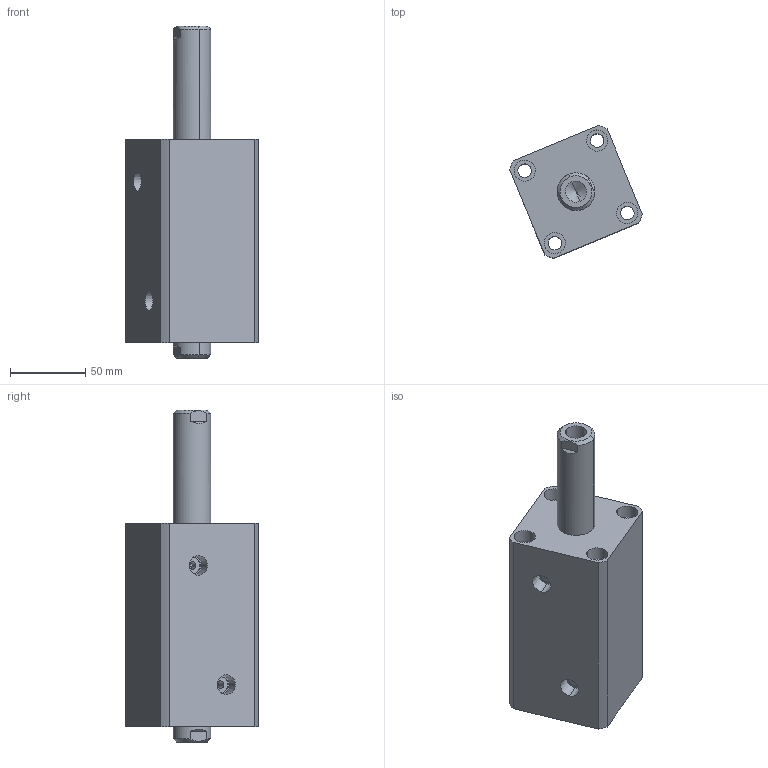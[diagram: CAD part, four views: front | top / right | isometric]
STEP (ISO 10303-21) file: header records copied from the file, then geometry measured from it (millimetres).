
FILE_DESCRIPTION (( 'STEP AP214' ), '1' );
FILE_NAME ('chtb-sw40x65n_asm.STEP', '2018-06-08T12:07:16', ( 'Windows' ), ( 'Microsoft' ), 'SwSTEP 2.0', 'SolidWorks 2015', '' );
FILE_SCHEMA (( 'AUTOMOTIVE_DESIGN' ));
Length unit declared in the file: millimetre
Products named in the file (4): CHTB-SW40X65NHSG; CHTB-SW40X65NBT; CHTB-SD40QG; chtb-sw40x65n_asm
Assembly tree (3 placements, depth 2):
  chtb-sw40x65n_asm
    CHTB-SD40QG
    CHTB-SW40X65NBT
    CHTB-SW40X65NHSG
Bounding box: 88.11 x 88.11 x 220 mm (x, y, z)
Volume: 594873.4 mm3; surface area: 111308.2 mm2
Topology: 3 solids, 3 shells, 167 faces, 429 edges, 282 vertices
Faces by surface type: cylinder 84, plane 40, cone 17, bspline 14, torus 12
Entity records: 10325 total; most frequent: CARTESIAN_POINT 6131, ORIENTED_EDGE 838, DIRECTION 822, EDGE_CURVE 419, AXIS2_PLACEMENT_3D 348, VERTEX_POINT 282, EDGE_LOOP 207, CIRCLE 189
